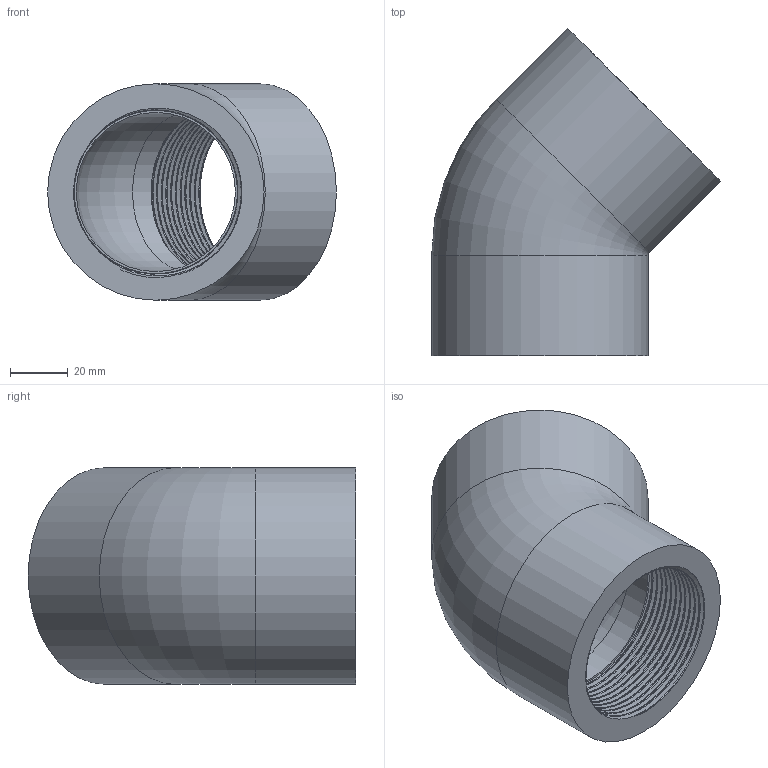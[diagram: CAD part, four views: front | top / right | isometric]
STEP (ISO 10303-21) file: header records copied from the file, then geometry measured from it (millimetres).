
FILE_DESCRIPTION(/* description */ ('PVC gomito a 45° incollaggio metrico'),/* implementation_level */ '2;1');
FILE_NAME(/* name */ 'C:\Users\POLYPIPE\Desktop\DATASET INVENTOR\LIBRERIA EFFAST\RACCORDI 3DxWEB\RER\3D_RERGYE\3D_RERGYE063G.stp',/* time_stamp */ '2018-01-19T16:34:32+01:00',/* author */ ('POLYPIPE'),/* organization */ ('Polypipe Italia s.r.l.'),/* preprocessor_version */ 'ST-DEVELOPER v16.1',/* originating_system */ 'Autodesk Inventor 2016',/* authorisation */ '');
FILE_SCHEMA (('CONFIG_CONTROL_DESIGN'));
Length unit declared in the file: millimetre
Products named in the file (1): 3D_RERGYE
Bounding box: 100.08 x 113.58 x 75 mm (x, y, z)
Volume: 189508.9 mm3; surface area: 53105.3 mm2
Topology: 1 solids, 1 shells, 24 faces, 50 edges, 30 vertices
Faces by surface type: bspline 10, cylinder 6, plane 6, torus 2
Full cylindrical faces by diameter (mm): 55.156 x2, 56.656 x2, 75 x2
Entity records: 9422 total; most frequent: CARTESIAN_POINT 8967, ORIENTED_EDGE 88, DIRECTION 68, EDGE_CURVE 44, EDGE_LOOP 34, AXIS2_PLACEMENT_3D 31, VERTEX_POINT 30, FACE_OUTER_BOUND 24
